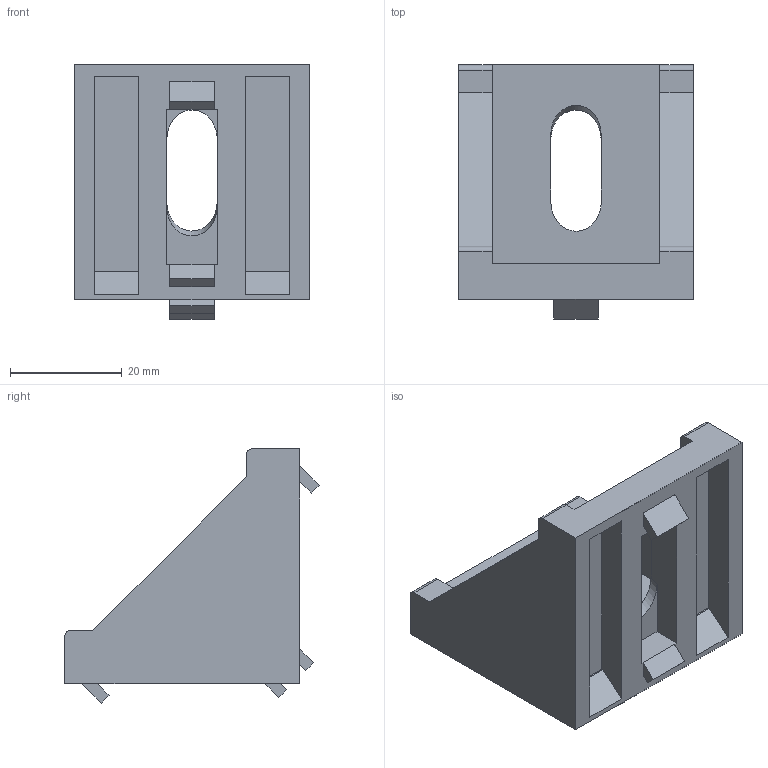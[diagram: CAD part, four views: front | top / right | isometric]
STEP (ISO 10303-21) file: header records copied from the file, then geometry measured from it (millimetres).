
FILE_DESCRIPTION (( 'STEP AP203' ), '1' );
FILE_NAME ('LIMA-GE45X45.STEP', '2018-03-15T12:45:51', ( '' ), ( '' ), 'SwSTEP 2.0', 'SolidWorks 2013', '' );
FILE_SCHEMA (( 'CONFIG_CONTROL_DESIGN' ));
Length unit declared in the file: millimetre
Products named in the file (1): LIMA-GE45X45
Bounding box: 42 x 45.5 x 45.5 mm (x, y, z)
Volume: 19670 mm3; surface area: 12206.5 mm2
Topology: 1 solids, 1 shells, 81 faces, 215 edges, 142 vertices
Faces by surface type: plane 71, cylinder 10
Entity records: 2550 total; most frequent: CARTESIAN_POINT 481, ORIENTED_EDGE 430, DIRECTION 373, EDGE_CURVE 215, LINE 193, VECTOR 193, VERTEX_POINT 142, EDGE_LOOP 91
